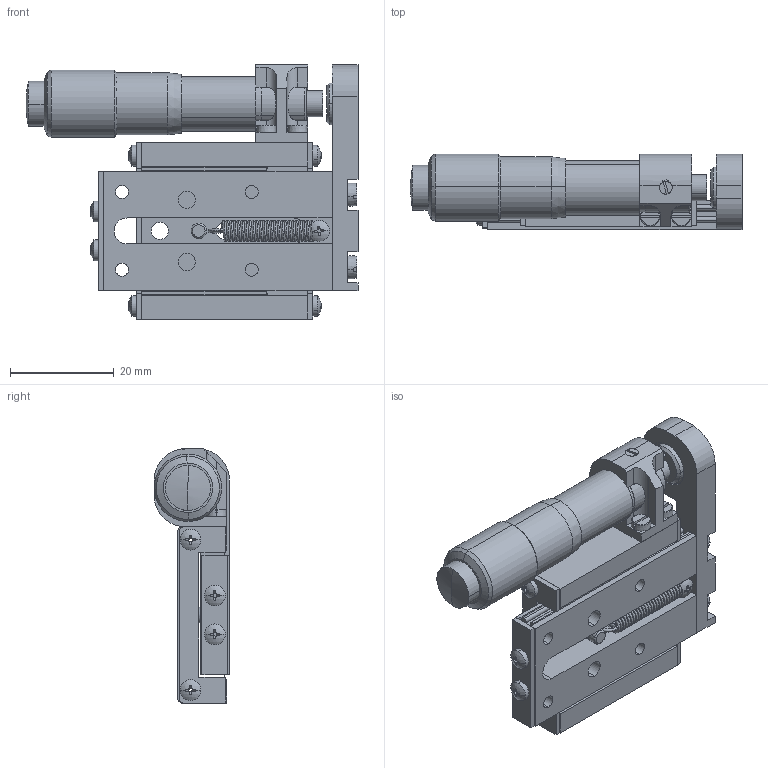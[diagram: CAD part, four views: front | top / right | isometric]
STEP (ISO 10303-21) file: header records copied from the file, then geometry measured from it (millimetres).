
FILE_DESCRIPTION (( 'STEP AP203' ), '1' );
FILE_NAME ('7STM01213-0Æ½ÒÆÌ¨.STEP', '2018-01-19T00:46:33', ( '' ), ( '' ), 'SwSTEP 2.0', 'SolidWorks 2014', '' );
FILE_SCHEMA (( 'CONFIG_CONTROL_DESIGN' ));
Length unit declared in the file: millimetre
Products named in the file (1): 7STM01213-0平移台
Bounding box: 64 x 14.58 x 49 mm (x, y, z)
Surface area: 14195.6 mm2 (no closed solid volume)
Topology: 0 solids, 43 shells, 439 faces, 1349 edges, 943 vertices
Faces by surface type: plane 210, cylinder 166, cone 33, sphere 16, torus 12, bspline 2
Entity records: 22067 total; most frequent: CARTESIAN_POINT 9826, DIRECTION 2674, ORIENTED_EDGE 2315, EDGE_CURVE 1349, AXIS2_PLACEMENT_3D 1033, VERTEX_POINT 943, LINE 608, VECTOR 608
